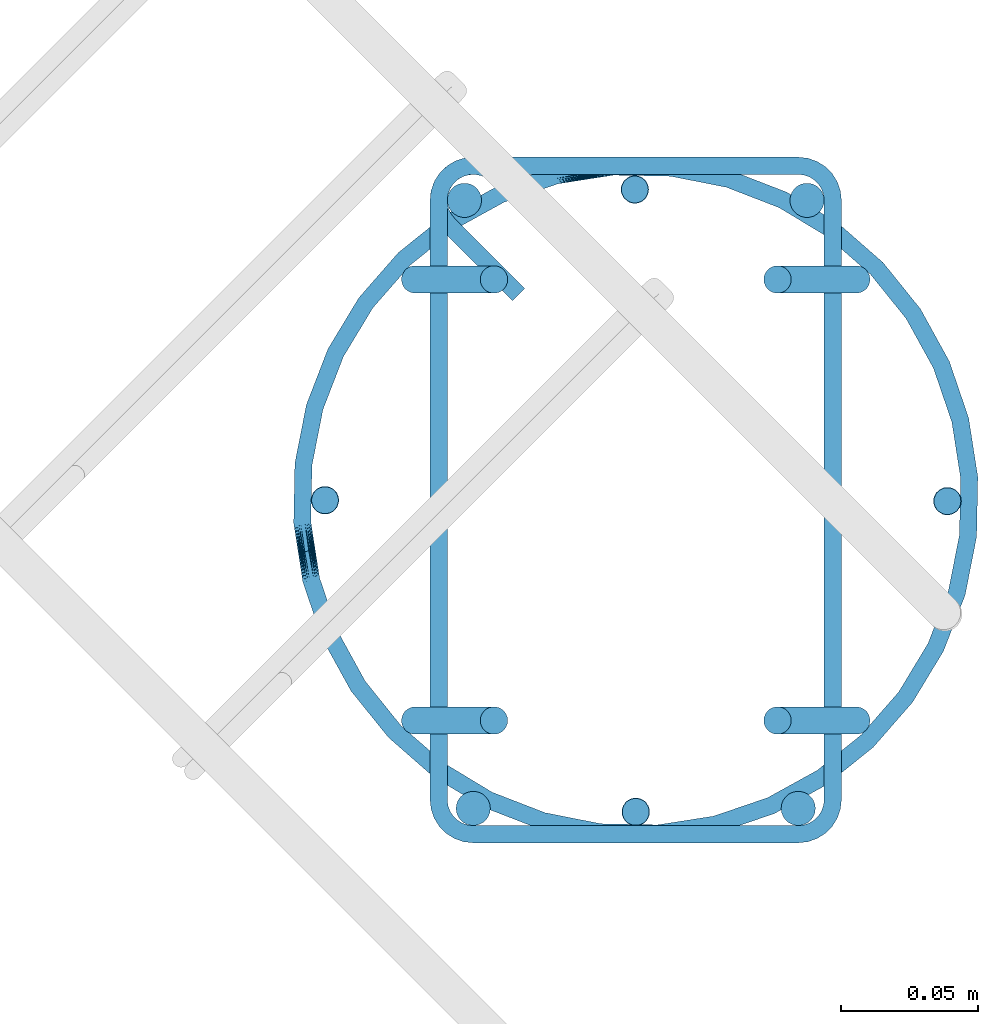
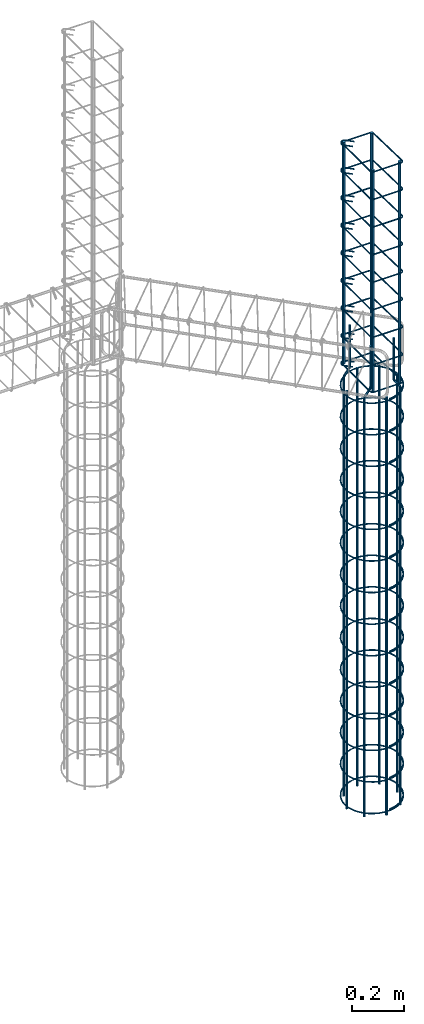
# One storey, part 14 of 14: 10 reinforcing bars.
"""IFC4 building model written with IfcOpenShell, lengths in centimetres."""

from ifc_helpers import new_model, entity, si_unit, converted_unit, derived_unit, direction, frame, origin, place, context, subcontext, project, spatial, type_object, element, save


model = new_model("IFC4")

# Units and contexts
model_context = context("Model", 3, precision=0.001, world=origin(), true_north=direction((6.123233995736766e-17, 1.0)))
body_context = subcontext(model_context, "Body", "Model", "MODEL_VIEW")
ifc_project = project(units=[si_unit("LENGTHUNIT", "METRE", prefix="CENTI"), si_unit("AREAUNIT", "SQUARE_METRE"), converted_unit("PLANEANGLEUNIT", "DEGREE", entity("IfcPlaneAngleMeasure", 0.017453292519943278), si_unit("PLANEANGLEUNIT", "RADIAN"), dimensions=[0, 0, 0, 0, 0, 0, 0]), si_unit("VOLUMEUNIT", "CUBIC_METRE"), derived_unit("THERMALTRANSMITTANCEUNIT", [(si_unit("MASSUNIT", "GRAM", prefix="KILO"), 1), (si_unit("THERMODYNAMICTEMPERATUREUNIT", "KELVIN"), -1), (si_unit("TIMEUNIT", "SECOND"), -3)])], contexts=[model_context])

# Site, building, storey
site_placement = place(None, origin())
site = spatial("IfcSite", under=ifc_project, at=site_placement, Name="Default", CompositionType="ELEMENT")
building_placement = place(site_placement, origin())
building = spatial("IfcBuilding", under=site, at=building_placement, Name="CONTENÇÃO DE ARQUIBANCADA - GINÁSIO PADRÃO", CompositionType="ELEMENT")
storey_placement = place(building_placement, frame((0.0, 0.0, -100.0)))
storey = spatial("IfcBuildingStorey", under=building, at=storey_placement, Name="Nível 3", CompositionType="ELEMENT", Elevation=-100.0)

# Reinforcing bars
reinforcing_bar_type_1 = type_object("IfcReinforcingBarType", Name="Barra do vergalhão:10 CA-50", PredefinedType="NOTDEFINED")
reinforcing_bar_1_placement = place(storey_placement, origin())
element("IfcReinforcingBar", 1, at=reinforcing_bar_1_placement, inside=storey, type_object=reinforcing_bar_type_1, Name="Barra do vergalhão:10 CA-50 : Forma 01", ObjectType="Barra do vergalhão:10 CA-50", context=body_context, shape_type="AdvancedSweptSolid", body=[
    entity("IfcSweptDiskSolid", entity("IfcIndexedPolyCurve", entity("IfcCartesianPointList3D", [[627.8737125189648, 179.06545923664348, -129.99999999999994], [627.8737125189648, 179.06545923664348, 68.00000000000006]]), None, False), 0.5, None, 0.0, 1.0),
    entity("IfcSweptDiskSolid", entity("IfcIndexedPolyCurve", entity("IfcCartesianPointList3D", [[650.5635796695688, 179.032757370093, -129.99999999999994], [650.5635796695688, 179.032757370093, 68.00000000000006]]), None, False), 0.5, None, 0.0, 1.0),
])
reinforcing_bar_2_placement = place(storey_placement, origin())
element("IfcReinforcingBar", 2, at=reinforcing_bar_2_placement, inside=storey, type_object=reinforcing_bar_type_1, Name="Barra do vergalhão:10 CA-50 : Forma 01", ObjectType="Barra do vergalhão:10 CA-50", context=body_context, shape_type="AdvancedSweptSolid", body=[
    entity("IfcSweptDiskSolid", entity("IfcIndexedPolyCurve", entity("IfcCartesianPointList3D", [[639.16959329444, 190.3940418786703, -129.99999999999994], [639.16959329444, 190.3940418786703, 68.00000000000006]]), None, False), 0.5, None, 0.0, 1.0),
    entity("IfcSweptDiskSolid", entity("IfcIndexedPolyCurve", entity("IfcCartesianPointList3D", [[639.2022951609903, 167.70417472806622, -129.99999999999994], [639.2022951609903, 167.70417472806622, 68.00000000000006]]), None, False), 0.5, None, 0.0, 1.0),
])
reinforcing_bar_3_placement = place(storey_placement, origin())
element("IfcReinforcingBar", 3, at=reinforcing_bar_3_placement, inside=storey, type_object=reinforcing_bar_type_1, Name="Barra do vergalhão:10 CA-50 : Forma 19", ObjectType="Barra do vergalhão:10 CA-50", context=body_context, shape_type="AdvancedSweptSolid", body=[
    entity("IfcSweptDiskSolid", entity("IfcIndexedPolyCurve", entity("IfcCartesianPointList3D", [[647.2431099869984, 187.1149900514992, -129.99999999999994], [647.2431099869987, 187.1149900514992, 67.4289900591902], [647.0684605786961, 187.1149900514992, 68.43764958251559], [646.5648472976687, 187.1149900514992, 69.32886791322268], [645.0492853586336, 187.1149900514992, 71.18095366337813], [644.5456720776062, 187.1149900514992, 72.07217199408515], [644.3710226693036, 187.1149900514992, 73.08083151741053], [644.3710226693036, 187.1149900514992, 92.00982157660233]]), [entity("IfcLineIndex", [1, 2]), entity("IfcArcIndex", [2, 3, 4]), entity("IfcLineIndex", [4, 5]), entity("IfcArcIndex", [5, 6, 7]), entity("IfcLineIndex", [7, 8])], False), 0.5, None, 0.0, 81.58693171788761),
])
reinforcing_bar_4_placement = place(storey_placement, origin())
element("IfcReinforcingBar", 4, at=reinforcing_bar_4_placement, inside=storey, type_object=reinforcing_bar_type_1, Name="Barra do vergalhão:10 CA-50 : Forma 19", ObjectType="Barra do vergalhão:10 CA-50", context=body_context, shape_type="AdvancedSweptSolid", body=[
    entity("IfcSweptDiskSolid", entity("IfcIndexedPolyCurve", entity("IfcCartesianPointList3D", [[631.1614803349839, 187.1149900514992, -129.99999999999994], [631.1614803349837, 187.1149900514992, 67.4289900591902], [631.3361297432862, 187.1149900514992, 68.43764958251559], [631.8397430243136, 187.1149900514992, 69.32886791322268], [633.3553049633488, 187.1149900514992, 71.18095366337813], [633.8589182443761, 187.1149900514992, 72.07217199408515], [634.0335676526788, 187.1149900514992, 73.08083151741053], [634.0335676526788, 187.1149900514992, 92.00982157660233]]), [entity("IfcLineIndex", [1, 2]), entity("IfcArcIndex", [2, 3, 4]), entity("IfcLineIndex", [4, 5]), entity("IfcArcIndex", [5, 6, 7]), entity("IfcLineIndex", [7, 8])], False), 0.5, None, 0.0, 81.58693171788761),
])
reinforcing_bar_5_placement = place(storey_placement, origin())
element("IfcReinforcingBar", 5, at=reinforcing_bar_5_placement, inside=storey, type_object=reinforcing_bar_type_1, Name="Barra do vergalhão:10 CA-50 : Forma 19", ObjectType="Barra do vergalhão:10 CA-50", context=body_context, shape_type="AdvancedSweptSolid", body=[
    entity("IfcSweptDiskSolid", entity("IfcIndexedPolyCurve", entity("IfcCartesianPointList3D", [[647.2431099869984, 171.03336039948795, -129.99999999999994], [647.2431099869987, 171.03336039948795, 67.4289900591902], [647.0684605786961, 171.03336039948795, 68.43764958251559], [646.5648472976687, 171.03336039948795, 69.32886791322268], [645.0492853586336, 171.03336039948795, 71.18095366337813], [644.5456720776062, 171.03336039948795, 72.07217199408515], [644.3710226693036, 171.03336039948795, 73.08083151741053], [644.3710226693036, 171.03336039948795, 92.00982157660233]]), [entity("IfcLineIndex", [1, 2]), entity("IfcArcIndex", [2, 3, 4]), entity("IfcLineIndex", [4, 5]), entity("IfcArcIndex", [5, 6, 7]), entity("IfcLineIndex", [7, 8])], False), 0.5, None, 0.0, 81.58693171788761),
])
reinforcing_bar_6_placement = place(storey_placement, origin())
element("IfcReinforcingBar", 6, at=reinforcing_bar_6_placement, inside=storey, type_object=reinforcing_bar_type_1, Name="Barra do vergalhão:10 CA-50 : Forma 19", ObjectType="Barra do vergalhão:10 CA-50", context=body_context, shape_type="AdvancedSweptSolid", body=[
    entity("IfcSweptDiskSolid", entity("IfcIndexedPolyCurve", entity("IfcCartesianPointList3D", [[631.1614803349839, 171.03336039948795, -129.99999999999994], [631.1614803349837, 171.03336039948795, 67.4289900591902], [631.3361297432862, 171.03336039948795, 68.43764958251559], [631.8397430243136, 171.03336039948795, 69.32886791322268], [633.3553049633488, 171.03336039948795, 71.18095366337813], [633.8589182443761, 171.03336039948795, 72.07217199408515], [634.0335676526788, 171.03336039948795, 73.08083151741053], [634.0335676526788, 171.03336039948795, 92.00982157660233]]), [entity("IfcLineIndex", [1, 2]), entity("IfcArcIndex", [2, 3, 4]), entity("IfcLineIndex", [4, 5]), entity("IfcArcIndex", [5, 6, 7]), entity("IfcLineIndex", [7, 8])], False), 0.5, None, 0.0, 81.58693171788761),
])
reinforcing_bar_type_2 = type_object("IfcReinforcingBarType", Name="Barra do vergalhão:12.5 CA-50", PredefinedType="NOTDEFINED")
reinforcing_bar_7_placement = place(storey_placement, origin())
element("IfcReinforcingBar", 7, at=reinforcing_bar_7_placement, inside=storey, type_object=reinforcing_bar_type_2, Name="Barra do vergalhão:12.5 CA-50 : Forma 01", ObjectType="Barra do vergalhão:12.5 CA-50", context=body_context, shape_type="AdvancedSweptSolid", body=[
    entity("IfcSweptDiskSolid", entity("IfcIndexedPolyCurve", entity("IfcCartesianPointList3D", [[645.447295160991, 189.99917522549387, 72.5], [645.447295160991, 189.99917522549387, 177.5]]), None, False), 0.625, None, 0.0, 1.0),
    entity("IfcSweptDiskSolid", entity("IfcIndexedPolyCurve", entity("IfcCartesianPointList3D", [[632.9572951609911, 189.99917522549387, 72.5], [632.9572951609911, 189.99917522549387, 177.5]]), None, False), 0.625, None, 0.0, 1.0),
])
reinforcing_bar_8_placement = place(storey_placement, origin())
element("IfcReinforcingBar", 8, at=reinforcing_bar_8_placement, inside=storey, type_object=reinforcing_bar_type_2, Name="Barra do vergalhão:12.5 CA-50 : Forma 01", ObjectType="Barra do vergalhão:12.5 CA-50", context=body_context, shape_type="AdvancedSweptSolid", body=[
    entity("IfcSweptDiskSolid", entity("IfcIndexedPolyCurve", entity("IfcCartesianPointList3D", [[633.277295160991, 167.82917522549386, 72.5], [633.277295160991, 167.82917522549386, 177.5]]), None, False), 0.625, None, 0.0, 1.0),
    entity("IfcSweptDiskSolid", entity("IfcIndexedPolyCurve", entity("IfcCartesianPointList3D", [[645.127295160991, 167.82917522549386, 72.5], [645.127295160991, 167.82917522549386, 177.5]]), None, False), 0.625, None, 0.0, 1.0),
])
reinforcing_bar_type_3 = type_object("IfcReinforcingBarType", Name="Barra do vergalhão:6.3 CA-50", PredefinedType="NOTDEFINED")
reinforcing_bar_9_placement = place(storey_placement, origin())
element("IfcReinforcingBar", 9, at=reinforcing_bar_9_placement, inside=storey, type_object=reinforcing_bar_type_3, Name="Barra do vergalhão:6.3 CA-50 : Forma 22", ObjectType="Barra do vergalhão:6.3 CA-50", context=body_context, shape_type="AdvancedSweptSolid", body=[
    entity("IfcSweptDiskSolid", entity("IfcIndexedPolyCurve", entity("IfcCartesianPointList3D", [[636.7182146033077, 188.34016487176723, 72.815], [634.168249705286, 190.89012976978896, 72.815], [632.795114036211, 191.16326343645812, 72.815], [632.017295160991, 189.9991752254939, 72.815], [632.0172951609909, 168.14917522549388, 72.815], [632.3863406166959, 167.25822068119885, 72.815], [633.277295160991, 166.8891752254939, 72.815], [645.1272951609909, 166.8891752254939, 72.815], [646.0182497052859, 167.2580974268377, 72.80546282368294], [646.387295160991, 168.1487544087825, 72.78243804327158], [646.387295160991, 189.9995960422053, 72.21756195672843], [646.0182497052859, 190.8902530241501, 72.19453717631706], [645.1272951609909, 191.2591752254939, 72.185], [633.277295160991, 191.25917522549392, 72.185], [632.1132069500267, 190.48135635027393, 72.185], [632.3863406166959, 189.10822068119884, 72.185], [634.9363055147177, 186.55825578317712, 72.185]]), [entity("IfcLineIndex", [1, 2]), entity("IfcArcIndex", [2, 3, 4]), entity("IfcLineIndex", [4, 5]), entity("IfcArcIndex", [5, 6, 7]), entity("IfcLineIndex", [7, 8]), entity("IfcArcIndex", [8, 9, 10]), entity("IfcLineIndex", [10, 11]), entity("IfcArcIndex", [11, 12, 13]), entity("IfcLineIndex", [13, 14]), entity("IfcArcIndex", [14, 15, 16]), entity("IfcLineIndex", [16, 17])], False), 0.31499999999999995, None, 0.0, 546.0000000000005),
    entity("IfcSweptDiskSolid", entity("IfcIndexedPolyCurve", entity("IfcCartesianPointList3D", [[636.7182146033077, 188.34016487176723, 85.86125], [634.168249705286, 190.89012976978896, 85.86125], [632.795114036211, 191.16326343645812, 85.86125], [632.017295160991, 189.9991752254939, 85.86125], [632.0172951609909, 168.14917522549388, 85.86125], [632.3863406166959, 167.25822068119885, 85.86125], [633.277295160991, 166.8891752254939, 85.86125], [645.1272951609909, 166.8891752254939, 85.86125], [646.0182497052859, 167.2580974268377, 85.85171282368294], [646.387295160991, 168.1487544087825, 85.82868804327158], [646.387295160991, 189.9995960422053, 85.26381195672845], [646.0182497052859, 190.8902530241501, 85.24078717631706], [645.1272951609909, 191.2591752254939, 85.23125], [633.277295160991, 191.25917522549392, 85.23125], [632.1132069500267, 190.48135635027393, 85.23125], [632.3863406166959, 189.10822068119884, 85.23125], [634.9363055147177, 186.55825578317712, 85.23125]]), [entity("IfcLineIndex", [1, 2]), entity("IfcArcIndex", [2, 3, 4]), entity("IfcLineIndex", [4, 5]), entity("IfcArcIndex", [5, 6, 7]), entity("IfcLineIndex", [7, 8]), entity("IfcArcIndex", [8, 9, 10]), entity("IfcLineIndex", [10, 11]), entity("IfcArcIndex", [11, 12, 13]), entity("IfcLineIndex", [13, 14]), entity("IfcArcIndex", [14, 15, 16]), entity("IfcLineIndex", [16, 17])], False), 0.31499999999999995, None, 0.0, 546.0000000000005),
    entity("IfcSweptDiskSolid", entity("IfcIndexedPolyCurve", entity("IfcCartesianPointList3D", [[636.7182146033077, 188.34016487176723, 98.90750000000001], [634.168249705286, 190.89012976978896, 98.90750000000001], [632.795114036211, 191.16326343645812, 98.90750000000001], [632.017295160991, 189.9991752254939, 98.90750000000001], [632.0172951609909, 168.14917522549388, 98.90750000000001], [632.3863406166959, 167.25822068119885, 98.90750000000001], [633.277295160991, 166.8891752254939, 98.90750000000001], [645.1272951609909, 166.8891752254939, 98.90750000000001], [646.0182497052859, 167.2580974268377, 98.89796282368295], [646.387295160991, 168.1487544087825, 98.87493804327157], [646.387295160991, 189.9995960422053, 98.31006195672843], [646.0182497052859, 190.8902530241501, 98.28703717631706], [645.1272951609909, 191.2591752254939, 98.2775], [633.277295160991, 191.25917522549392, 98.2775], [632.1132069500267, 190.48135635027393, 98.2775], [632.3863406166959, 189.10822068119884, 98.2775], [634.9363055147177, 186.55825578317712, 98.2775]]), [entity("IfcLineIndex", [1, 2]), entity("IfcArcIndex", [2, 3, 4]), entity("IfcLineIndex", [4, 5]), entity("IfcArcIndex", [5, 6, 7]), entity("IfcLineIndex", [7, 8]), entity("IfcArcIndex", [8, 9, 10]), entity("IfcLineIndex", [10, 11]), entity("IfcArcIndex", [11, 12, 13]), entity("IfcLineIndex", [13, 14]), entity("IfcArcIndex", [14, 15, 16]), entity("IfcLineIndex", [16, 17])], False), 0.31499999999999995, None, 0.0, 546.0000000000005),
    entity("IfcSweptDiskSolid", entity("IfcIndexedPolyCurve", entity("IfcCartesianPointList3D", [[636.7182146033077, 188.34016487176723, 111.95375000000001], [634.168249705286, 190.89012976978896, 111.95375000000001], [632.795114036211, 191.16326343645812, 111.95375000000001], [632.017295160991, 189.9991752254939, 111.95375000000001], [632.0172951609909, 168.14917522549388, 111.95375000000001], [632.3863406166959, 167.25822068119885, 111.95375000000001], [633.277295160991, 166.8891752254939, 111.95375000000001], [645.1272951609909, 166.8891752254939, 111.95375000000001], [646.0182497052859, 167.2580974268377, 111.94421282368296], [646.387295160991, 168.1487544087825, 111.92118804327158], [646.387295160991, 189.9995960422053, 111.35631195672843], [646.0182497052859, 190.8902530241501, 111.33328717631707], [645.1272951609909, 191.2591752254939, 111.32375000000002], [633.277295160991, 191.25917522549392, 111.32375000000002], [632.1132069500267, 190.48135635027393, 111.32375000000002], [632.3863406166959, 189.10822068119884, 111.32375000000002], [634.9363055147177, 186.55825578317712, 111.32375000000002]]), [entity("IfcLineIndex", [1, 2]), entity("IfcArcIndex", [2, 3, 4]), entity("IfcLineIndex", [4, 5]), entity("IfcArcIndex", [5, 6, 7]), entity("IfcLineIndex", [7, 8]), entity("IfcArcIndex", [8, 9, 10]), entity("IfcLineIndex", [10, 11]), entity("IfcArcIndex", [11, 12, 13]), entity("IfcLineIndex", [13, 14]), entity("IfcArcIndex", [14, 15, 16]), entity("IfcLineIndex", [16, 17])], False), 0.31499999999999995, None, 0.0, 546.0000000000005),
    entity("IfcSweptDiskSolid", entity("IfcIndexedPolyCurve", entity("IfcCartesianPointList3D", [[636.7182146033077, 188.34016487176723, 125.0], [634.168249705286, 190.89012976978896, 125.0], [632.795114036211, 191.16326343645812, 125.0], [632.017295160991, 189.9991752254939, 125.0], [632.0172951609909, 168.14917522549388, 125.0], [632.3863406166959, 167.25822068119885, 125.0], [633.277295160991, 166.8891752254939, 125.0], [645.1272951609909, 166.8891752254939, 125.0], [646.0182497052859, 167.2580974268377, 124.99046282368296], [646.387295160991, 168.1487544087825, 124.96743804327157], [646.387295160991, 189.9995960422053, 124.40256195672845], [646.0182497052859, 190.8902530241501, 124.37953717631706], [645.1272951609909, 191.2591752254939, 124.37000000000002], [633.277295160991, 191.25917522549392, 124.37000000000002], [632.1132069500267, 190.48135635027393, 124.37000000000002], [632.3863406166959, 189.10822068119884, 124.37000000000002], [634.9363055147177, 186.55825578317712, 124.37000000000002]]), [entity("IfcLineIndex", [1, 2]), entity("IfcArcIndex", [2, 3, 4]), entity("IfcLineIndex", [4, 5]), entity("IfcArcIndex", [5, 6, 7]), entity("IfcLineIndex", [7, 8]), entity("IfcArcIndex", [8, 9, 10]), entity("IfcLineIndex", [10, 11]), entity("IfcArcIndex", [11, 12, 13]), entity("IfcLineIndex", [13, 14]), entity("IfcArcIndex", [14, 15, 16]), entity("IfcLineIndex", [16, 17])], False), 0.31499999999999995, None, 0.0, 546.0000000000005),
    entity("IfcSweptDiskSolid", entity("IfcIndexedPolyCurve", entity("IfcCartesianPointList3D", [[636.7182146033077, 188.34016487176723, 138.04625000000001], [634.168249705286, 190.89012976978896, 138.04625000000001], [632.795114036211, 191.16326343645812, 138.04625000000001], [632.017295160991, 189.9991752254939, 138.04625000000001], [632.0172951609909, 168.14917522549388, 138.04625000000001], [632.3863406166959, 167.25822068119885, 138.04625000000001], [633.277295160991, 166.8891752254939, 138.04625000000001], [645.1272951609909, 166.8891752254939, 138.04625000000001], [646.0182497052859, 167.2580974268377, 138.03671282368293], [646.387295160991, 168.1487544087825, 138.01368804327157], [646.387295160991, 189.9995960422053, 137.44881195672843], [646.0182497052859, 190.8902530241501, 137.42578717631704], [645.1272951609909, 191.2591752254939, 137.41625], [633.277295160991, 191.25917522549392, 137.41625], [632.1132069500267, 190.48135635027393, 137.41625], [632.3863406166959, 189.10822068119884, 137.41625], [634.9363055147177, 186.55825578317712, 137.41625]]), [entity("IfcLineIndex", [1, 2]), entity("IfcArcIndex", [2, 3, 4]), entity("IfcLineIndex", [4, 5]), entity("IfcArcIndex", [5, 6, 7]), entity("IfcLineIndex", [7, 8]), entity("IfcArcIndex", [8, 9, 10]), entity("IfcLineIndex", [10, 11]), entity("IfcArcIndex", [11, 12, 13]), entity("IfcLineIndex", [13, 14]), entity("IfcArcIndex", [14, 15, 16]), entity("IfcLineIndex", [16, 17])], False), 0.31499999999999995, None, 0.0, 546.0000000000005),
    entity("IfcSweptDiskSolid", entity("IfcIndexedPolyCurve", entity("IfcCartesianPointList3D", [[636.7182146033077, 188.34016487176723, 151.09250000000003], [634.168249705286, 190.89012976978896, 151.09250000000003], [632.795114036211, 191.16326343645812, 151.09250000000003], [632.017295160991, 189.9991752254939, 151.09250000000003], [632.0172951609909, 168.14917522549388, 151.09250000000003], [632.3863406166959, 167.25822068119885, 151.09250000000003], [633.277295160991, 166.8891752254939, 151.09250000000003], [645.1272951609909, 166.8891752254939, 151.09250000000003], [646.0182497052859, 167.2580974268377, 151.08296282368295], [646.387295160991, 168.1487544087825, 151.0599380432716], [646.387295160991, 189.9995960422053, 150.49506195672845], [646.0182497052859, 190.8902530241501, 150.47203717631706], [645.1272951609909, 191.2591752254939, 150.4625], [633.277295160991, 191.25917522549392, 150.4625], [632.1132069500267, 190.48135635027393, 150.4625], [632.3863406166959, 189.10822068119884, 150.4625], [634.9363055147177, 186.55825578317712, 150.4625]]), [entity("IfcLineIndex", [1, 2]), entity("IfcArcIndex", [2, 3, 4]), entity("IfcLineIndex", [4, 5]), entity("IfcArcIndex", [5, 6, 7]), entity("IfcLineIndex", [7, 8]), entity("IfcArcIndex", [8, 9, 10]), entity("IfcLineIndex", [10, 11]), entity("IfcArcIndex", [11, 12, 13]), entity("IfcLineIndex", [13, 14]), entity("IfcArcIndex", [14, 15, 16]), entity("IfcLineIndex", [16, 17])], False), 0.31499999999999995, None, 0.0, 546.0000000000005),
    entity("IfcSweptDiskSolid", entity("IfcIndexedPolyCurve", entity("IfcCartesianPointList3D", [[636.7182146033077, 188.34016487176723, 164.13875000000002], [634.168249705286, 190.89012976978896, 164.13875000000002], [632.795114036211, 191.16326343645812, 164.13875000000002], [632.017295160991, 189.9991752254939, 164.13875000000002], [632.0172951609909, 168.14917522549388, 164.13875000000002], [632.3863406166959, 167.25822068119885, 164.13875000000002], [633.277295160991, 166.8891752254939, 164.13875000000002], [645.1272951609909, 166.8891752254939, 164.13875000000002], [646.0182497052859, 167.2580974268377, 164.12921282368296], [646.387295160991, 168.1487544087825, 164.10618804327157], [646.387295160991, 189.9995960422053, 163.54131195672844], [646.0182497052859, 190.8902530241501, 163.51828717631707], [645.1272951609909, 191.2591752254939, 163.50875000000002], [633.277295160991, 191.25917522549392, 163.50875000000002], [632.1132069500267, 190.48135635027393, 163.50875000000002], [632.3863406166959, 189.10822068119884, 163.50875000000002], [634.9363055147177, 186.55825578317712, 163.50875000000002]]), [entity("IfcLineIndex", [1, 2]), entity("IfcArcIndex", [2, 3, 4]), entity("IfcLineIndex", [4, 5]), entity("IfcArcIndex", [5, 6, 7]), entity("IfcLineIndex", [7, 8]), entity("IfcArcIndex", [8, 9, 10]), entity("IfcLineIndex", [10, 11]), entity("IfcArcIndex", [11, 12, 13]), entity("IfcLineIndex", [13, 14]), entity("IfcArcIndex", [14, 15, 16]), entity("IfcLineIndex", [16, 17])], False), 0.31499999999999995, None, 0.0, 546.0000000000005),
    entity("IfcSweptDiskSolid", entity("IfcIndexedPolyCurve", entity("IfcCartesianPointList3D", [[636.7182146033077, 188.34016487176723, 177.185], [634.168249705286, 190.89012976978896, 177.185], [632.795114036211, 191.16326343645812, 177.185], [632.017295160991, 189.9991752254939, 177.185], [632.0172951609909, 168.14917522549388, 177.185], [632.3863406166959, 167.25822068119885, 177.185], [633.277295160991, 166.8891752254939, 177.185], [645.1272951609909, 166.8891752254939, 177.18500000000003], [646.0182497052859, 167.2580974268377, 177.17546282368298], [646.387295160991, 168.1487544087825, 177.1524380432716], [646.387295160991, 189.9995960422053, 176.58756195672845], [646.0182497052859, 190.8902530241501, 176.56453717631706], [645.1272951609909, 191.2591752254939, 176.55500000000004], [633.277295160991, 191.25917522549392, 176.55500000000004], [632.1132069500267, 190.48135635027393, 176.55500000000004], [632.3863406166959, 189.10822068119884, 176.55500000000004], [634.9363055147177, 186.55825578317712, 176.55500000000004]]), [entity("IfcLineIndex", [1, 2]), entity("IfcArcIndex", [2, 3, 4]), entity("IfcLineIndex", [4, 5]), entity("IfcArcIndex", [5, 6, 7]), entity("IfcLineIndex", [7, 8]), entity("IfcArcIndex", [8, 9, 10]), entity("IfcLineIndex", [10, 11]), entity("IfcArcIndex", [11, 12, 13]), entity("IfcLineIndex", [13, 14]), entity("IfcArcIndex", [14, 15, 16]), entity("IfcLineIndex", [16, 17])], False), 0.31499999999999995, None, 0.0, 546.0000000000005),
])
reinforcing_bar_10_placement = place(storey_placement, origin())
element("IfcReinforcingBar", 10, at=reinforcing_bar_10_placement, inside=storey, type_object=reinforcing_bar_type_3, Name="Barra do vergalhão:6.3 CA-50 : Forma 33", ObjectType="Barra do vergalhão:6.3 CA-50", context=body_context, shape_type="AdvancedSweptSolid", body=[
    entity("IfcSweptDiskSolid", entity("IfcIndexedPolyCurve", entity("IfcCartesianPointList3D", [[640.021814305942, 166.9167654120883, -127.19078734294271], [651.3597049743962, 179.89369437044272, -127.1907873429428], [638.3827760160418, 191.23158503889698, -127.19078734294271], [630.026271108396, 187.09133230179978, -127.50578734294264], [627.0448750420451, 178.2548089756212, -127.82078734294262], [640.0216614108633, 166.91675510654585, -127.82078734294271], [651.3597152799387, 179.89354147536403, -127.82078734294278]]), [entity("IfcArcIndex", [1, 2, 3]), entity("IfcArcIndex", [3, 4, 5]), entity("IfcArcIndex", [5, 6, 7])], False), 0.31499999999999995, None, 0.0, 449.94517687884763),
    entity("IfcSweptDiskSolid", entity("IfcIndexedPolyCurve", entity("IfcCartesianPointList3D", [[640.0218143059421, 166.9167654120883, -112.23880370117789], [651.3597049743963, 179.89369437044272, -112.23880370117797], [638.3827760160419, 191.23158503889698, -112.23880370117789], [630.0262711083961, 187.09133230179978, -112.55380370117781], [627.0448750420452, 178.2548089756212, -112.8688037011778], [640.0216614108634, 166.91675510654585, -112.86880370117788], [651.3597152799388, 179.89354147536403, -112.86880370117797]]), [entity("IfcArcIndex", [1, 2, 3]), entity("IfcArcIndex", [3, 4, 5]), entity("IfcArcIndex", [5, 6, 7])], False), 0.31499999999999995, None, 0.0, 449.94517687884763),
    entity("IfcSweptDiskSolid", entity("IfcIndexedPolyCurve", entity("IfcCartesianPointList3D", [[640.0218143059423, 166.9167654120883, -97.28682005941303], [651.3597049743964, 179.89369437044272, -97.28682005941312], [638.382776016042, 191.23158503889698, -97.28682005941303], [630.0262711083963, 187.09133230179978, -97.60182005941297], [627.0448750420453, 178.2548089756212, -97.91682005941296], [640.0216614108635, 166.91675510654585, -97.91682005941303], [651.3597152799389, 179.89354147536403, -97.91682005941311]]), [entity("IfcArcIndex", [1, 2, 3]), entity("IfcArcIndex", [3, 4, 5]), entity("IfcArcIndex", [5, 6, 7])], False), 0.31499999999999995, None, 0.0, 449.94517687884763),
    entity("IfcSweptDiskSolid", entity("IfcIndexedPolyCurve", entity("IfcCartesianPointList3D", [[640.0218143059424, 166.9167654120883, -82.33483641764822], [651.3597049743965, 179.89369437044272, -82.33483641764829], [638.3827760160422, 191.23158503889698, -82.33483641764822], [630.0262711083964, 187.09133230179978, -82.64983641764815], [627.0448750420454, 178.2548089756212, -82.96483641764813], [640.0216614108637, 166.91675510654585, -82.9648364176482], [651.359715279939, 179.89354147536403, -82.96483641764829]]), [entity("IfcArcIndex", [1, 2, 3]), entity("IfcArcIndex", [3, 4, 5]), entity("IfcArcIndex", [5, 6, 7])], False), 0.31499999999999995, None, 0.0, 449.94517687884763),
    entity("IfcSweptDiskSolid", entity("IfcIndexedPolyCurve", entity("IfcCartesianPointList3D", [[640.0218143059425, 166.9167654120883, -67.38285277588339], [651.3597049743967, 179.89369437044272, -67.38285277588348], [638.3827760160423, 191.23158503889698, -67.38285277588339], [630.0262711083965, 187.09133230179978, -67.69785277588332], [627.0448750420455, 178.2548089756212, -68.0128527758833], [640.0216614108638, 166.91675510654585, -68.01285277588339], [651.3597152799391, 179.89354147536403, -68.01285277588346]]), [entity("IfcArcIndex", [1, 2, 3]), entity("IfcArcIndex", [3, 4, 5]), entity("IfcArcIndex", [5, 6, 7])], False), 0.31499999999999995, None, 0.0, 449.94517687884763),
    entity("IfcSweptDiskSolid", entity("IfcIndexedPolyCurve", entity("IfcCartesianPointList3D", [[640.0218143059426, 166.9167654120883, -52.43086913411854], [651.3597049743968, 179.89369437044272, -52.43086913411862], [638.3827760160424, 191.23158503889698, -52.430869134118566], [630.0262711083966, 187.09133230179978, -52.74586913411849], [627.0448750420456, 178.2548089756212, -53.06086913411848], [640.0216614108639, 166.91675510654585, -53.06086913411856], [651.3597152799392, 179.89354147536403, -53.06086913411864]]), [entity("IfcArcIndex", [1, 2, 3]), entity("IfcArcIndex", [3, 4, 5]), entity("IfcArcIndex", [5, 6, 7])], False), 0.31499999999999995, None, 0.0, 449.94517687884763),
    entity("IfcSweptDiskSolid", entity("IfcIndexedPolyCurve", entity("IfcCartesianPointList3D", [[640.0218143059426, 166.9167654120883, -37.47888549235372], [651.3597049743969, 179.89369437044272, -37.4788854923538], [638.3827760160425, 191.23158503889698, -37.47888549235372], [630.0262711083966, 187.09133230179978, -37.793885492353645], [627.0448750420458, 178.2548089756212, -38.10888549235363], [640.021661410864, 166.91675510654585, -38.10888549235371], [651.3597152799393, 179.89354147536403, -38.10888549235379]]), [entity("IfcArcIndex", [1, 2, 3]), entity("IfcArcIndex", [3, 4, 5]), entity("IfcArcIndex", [5, 6, 7])], False), 0.31499999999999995, None, 0.0, 449.94517687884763),
    entity("IfcSweptDiskSolid", entity("IfcIndexedPolyCurve", entity("IfcCartesianPointList3D", [[640.0218143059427, 166.9167654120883, -22.526901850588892], [651.359704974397, 179.89369437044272, -22.526901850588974], [638.3827760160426, 191.23158503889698, -22.526901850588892], [630.0262711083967, 187.09133230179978, -22.841901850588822], [627.0448750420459, 178.2548089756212, -23.156901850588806], [640.0216614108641, 166.91675510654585, -23.156901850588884], [651.3597152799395, 179.89354147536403, -23.156901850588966]]), [entity("IfcArcIndex", [1, 2, 3]), entity("IfcArcIndex", [3, 4, 5]), entity("IfcArcIndex", [5, 6, 7])], False), 0.31499999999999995, None, 0.0, 449.94517687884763),
    entity("IfcSweptDiskSolid", entity("IfcIndexedPolyCurve", entity("IfcCartesianPointList3D", [[640.0218143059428, 166.9167654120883, -7.574918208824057], [651.3597049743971, 179.89369437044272, -7.574918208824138], [638.3827760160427, 191.23158503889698, -7.574918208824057], [630.0262711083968, 187.09133230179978, -7.889918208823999], [627.044875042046, 178.2548089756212, -8.204918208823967], [640.0216614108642, 166.91675510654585, -8.204918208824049], [651.3597152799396, 179.89354147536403, -8.20491820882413]]), [entity("IfcArcIndex", [1, 2, 3]), entity("IfcArcIndex", [3, 4, 5]), entity("IfcArcIndex", [5, 6, 7])], False), 0.31499999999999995, None, 0.0, 449.94517687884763),
    entity("IfcSweptDiskSolid", entity("IfcIndexedPolyCurve", entity("IfcCartesianPointList3D", [[640.0218143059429, 166.9167654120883, 7.37706543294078], [651.3597049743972, 179.89369437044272, 7.377065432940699], [638.3827760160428, 191.23158503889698, 7.37706543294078], [630.0262711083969, 187.09133230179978, 7.062065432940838], [627.0448750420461, 178.2548089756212, 6.74706543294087], [640.0216614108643, 166.91675510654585, 6.747065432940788], [651.3597152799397, 179.89354147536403, 6.747065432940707]]), [entity("IfcArcIndex", [1, 2, 3]), entity("IfcArcIndex", [3, 4, 5]), entity("IfcArcIndex", [5, 6, 7])], False), 0.31499999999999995, None, 0.0, 449.94517687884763),
    entity("IfcSweptDiskSolid", entity("IfcIndexedPolyCurve", entity("IfcCartesianPointList3D", [[640.021814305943, 166.9167654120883, 22.329049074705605], [651.3597049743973, 179.89369437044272, 22.329049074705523], [638.382776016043, 191.23158503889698, 22.329049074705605], [630.026271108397, 187.09133230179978, 22.01404907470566], [627.0448750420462, 178.2548089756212, 21.699049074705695], [640.0216614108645, 166.91675510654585, 21.699049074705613], [651.3597152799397, 179.89354147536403, 21.69904907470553]]), [entity("IfcArcIndex", [1, 2, 3]), entity("IfcArcIndex", [3, 4, 5]), entity("IfcArcIndex", [5, 6, 7])], False), 0.31499999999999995, None, 0.0, 449.94517687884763),
    entity("IfcSweptDiskSolid", entity("IfcIndexedPolyCurve", entity("IfcCartesianPointList3D", [[640.0218143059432, 166.9167654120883, 37.28103271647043], [651.3597049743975, 179.89369437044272, 37.28103271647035], [638.3827760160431, 191.23158503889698, 37.28103271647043], [630.0262711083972, 187.09133230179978, 36.96603271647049], [627.0448750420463, 178.2548089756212, 36.65103271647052], [640.0216614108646, 166.91675510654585, 36.65103271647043], [651.3597152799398, 179.89354147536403, 36.651032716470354]]), [entity("IfcArcIndex", [1, 2, 3]), entity("IfcArcIndex", [3, 4, 5]), entity("IfcArcIndex", [5, 6, 7])], False), 0.31499999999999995, None, 0.0, 449.94517687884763),
    entity("IfcSweptDiskSolid", entity("IfcIndexedPolyCurve", entity("IfcCartesianPointList3D", [[640.0218143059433, 166.9167654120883, 52.23301635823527], [651.3597049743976, 179.89369437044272, 52.23301635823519], [638.3827760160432, 191.23158503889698, 52.233016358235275], [630.0262711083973, 187.09133230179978, 51.918016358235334], [627.0448750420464, 178.2548089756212, 51.60301635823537], [640.0216614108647, 166.91675510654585, 51.60301635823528], [651.3597152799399, 179.89354147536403, 51.603016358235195]]), [entity("IfcArcIndex", [1, 2, 3]), entity("IfcArcIndex", [3, 4, 5]), entity("IfcArcIndex", [5, 6, 7])], False), 0.31499999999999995, None, 0.0, 449.94517687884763),
    entity("IfcSweptDiskSolid", entity("IfcIndexedPolyCurve", entity("IfcCartesianPointList3D", [[640.0218143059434, 166.9167654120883, 67.1850000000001], [651.3597049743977, 179.89369437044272, 67.18500000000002], [638.3827760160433, 191.23158503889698, 67.1850000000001], [630.0262711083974, 187.09133230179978, 66.87000000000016], [627.0448750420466, 178.2548089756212, 66.55500000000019], [640.0216614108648, 166.91675510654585, 66.5550000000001], [651.35971527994, 179.89354147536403, 66.55500000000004]]), [entity("IfcArcIndex", [1, 2, 3]), entity("IfcArcIndex", [3, 4, 5]), entity("IfcArcIndex", [5, 6, 7])], False), 0.31499999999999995, None, 0.0, 449.94517687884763),
])

save(model, "model.ifc")
